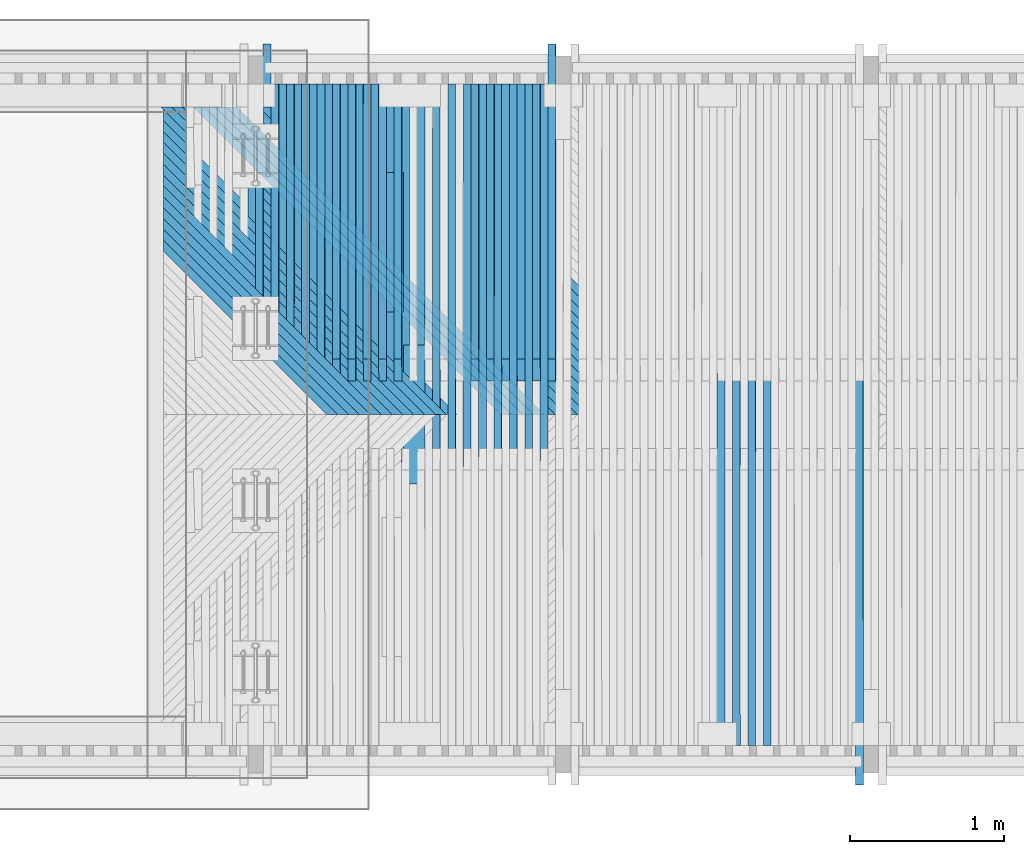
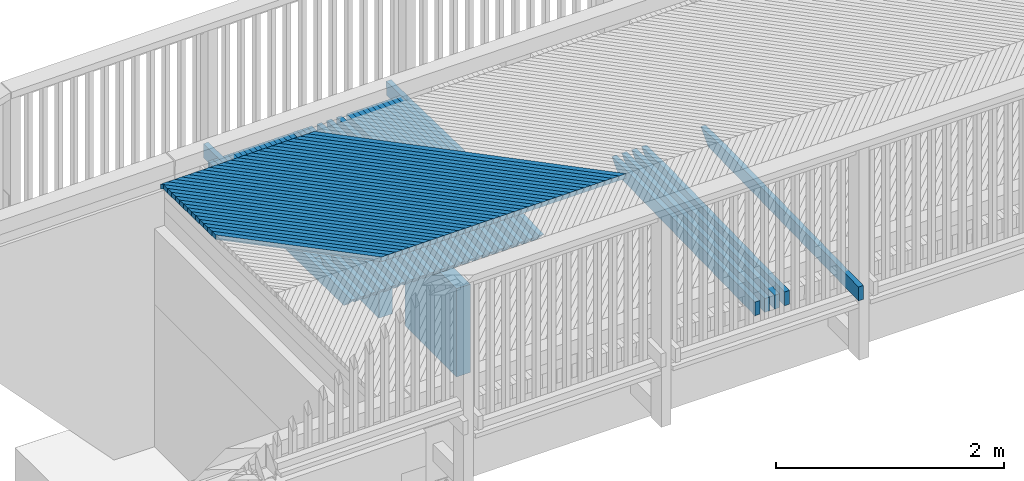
# One storey, part 19 of 52: 78 beams.
"""IFC2X3 building model written with IfcOpenShell, lengths in millimetres."""

from ifc_helpers import new_model, si_unit, frame, origin_with_axes, place, context, subcontext, project, spatial, faceted_brep, material, type_object, element, save


model = new_model("IFC2X3")

# Units and contexts
model_context = context("Model", 3, precision=1e-05, world=origin_with_axes())
body_context = subcontext(model_context, "Body", "Model", "MODEL_VIEW")
ifc_project = project(units=[si_unit("LENGTHUNIT", "METRE", prefix="MILLI"), si_unit("AREAUNIT", "SQUARE_METRE"), si_unit("VOLUMEUNIT", "CUBIC_METRE"), si_unit("MASSUNIT", "GRAM", prefix="KILO"), si_unit("TIMEUNIT", "SECOND"), si_unit("PLANEANGLEUNIT", "RADIAN"), si_unit("SOLIDANGLEUNIT", "STERADIAN"), si_unit("THERMODYNAMICTEMPERATUREUNIT", "DEGREE_CELSIUS"), si_unit("LUMINOUSINTENSITYUNIT", "LUMEN")], contexts=[model_context])

# Site, building, storey
site_placement = place(None, origin_with_axes())
site = spatial("IfcSite", under=ifc_project, at=site_placement, Name="Undefined", CompositionType="ELEMENT")
building_placement = place(site_placement, origin_with_axes())
building = spatial("IfcBuilding", under=site, at=building_placement, Name="Undefined", CompositionType="ELEMENT")
storey_placement = place(building_placement, origin_with_axes())
storey = spatial("IfcBuildingStorey", under=building, at=storey_placement, Name="Undefined", CompositionType="ELEMENT", Elevation=0.0)

# Beams
ifc_material = material(Name="TIMBER/Timber_Undefined")
beam_type_1 = type_object("IfcBeamType", Name="945*140", PredefinedType="NOTDEFINED")
for number, where, z_axis, x_axis in (
    (1, (1031.0, 2817.5, 2502.1379002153), (0.0, 0.0, 1.0), (0.0, -1.0, 0.0)),
    (2, (891.0, 3937.5, 2500.3779002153), (0.0, 0.0, 1.0), (0.0, -1.0, 0.0)),
):
    element("IfcBeam", number, at=place(storey_placement, frame(where, z_axis=z_axis, x_axis=x_axis)), inside=storey, type_object=beam_type_1, material=ifc_material, Name="PALKKI", ObjectType="945*140", context=body_context, shape_type="Brep", body=[
        faceted_brep([(0.0, 70.0, -472.5), (0.0, 70.0, 472.5), (905.0, 70.0, 472.5), (905.0, 70.0, -472.5), (0.0, -70.0, 472.5), (905.0, -70.0, 472.5), (0.0, -70.0, -472.5), (905.0, -70.0, -472.5)], [[[0, 1, 2, 3]], [[1, 4, 5, 2]], [[4, 6, 7, 5]], [[6, 0, 3, 7]], [[5, 7, 3, 2]], [[6, 4, 1, 0]]]),
    ])
beam_type_2 = type_object("IfcBeamType", Name="50*50", PredefinedType="NOTDEFINED")
beam_1_placement = place(storey_placement, frame((497.783472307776, 2365.49989967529, 3189.38189593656), z_axis=(0.707219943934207, 0.706981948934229, -0.00405891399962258), x_axis=(-0.706849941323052, 0.706948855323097, -0.024217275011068)))
element("IfcBeam", 3, at=beam_1_placement, inside=storey, type_object=beam_type_2, material=ifc_material, Name="BEAM", ObjectType="50*50", context=body_context, shape_type="Brep", body=[
    faceted_brep([(25.0011701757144, -25.0, -25.0), (-25.0011704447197, -25.0, 24.9999999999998), (-26.4154158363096, 25.0000000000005, 24.9999999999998), (23.5869248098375, 25.0, -25.0000000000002), (1577.57341753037, 25.0, 25.0000000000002), (1527.54724488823, 24.9999999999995, -24.9999999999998), (1528.55536067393, -25.0, -24.9999999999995), (1578.58153331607, -25.0000000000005, 24.9999999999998)], [[[0, 1, 2, 3]], [[3, 2, 4, 5]], [[0, 3, 5, 6]], [[1, 0, 6, 7]], [[2, 1, 7, 4]], [[6, 5, 4, 7]]]),
])
beam_2_placement = place(storey_placement, frame((568.50226725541, 2365.49989967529, 3190.25895789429), z_axis=(0.707219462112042, 0.706981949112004, -0.0041419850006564), x_axis=(-0.706852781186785, 0.706948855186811, -0.0241342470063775)))
element("IfcBeam", 4, at=beam_2_placement, inside=storey, type_object=beam_type_2, material=ifc_material, Name="BEAM", ObjectType="50*50", context=body_context, shape_type="Brep", body=[
    faceted_brep([(25.0011701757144, -25.0, -25.0), (-25.0011704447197, -25.0, 24.9999999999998), (-26.4154158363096, 25.0000000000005, 24.9999999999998), (23.5869248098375, 25.0, -25.0000000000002), (1677.61863252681, 25.0000000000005, 24.9999999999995), (1627.59269495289, 25.0, -25.0000000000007), (1628.59250041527, -25.0, -25.0000000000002), (1678.61843798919, -24.9999999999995, 24.9999999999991)], [[[0, 1, 2, 3]], [[3, 2, 4, 5]], [[0, 3, 5, 6]], [[1, 0, 6, 7]], [[2, 1, 7, 4]], [[6, 5, 4, 7]]]),
])
beam_3_placement = place(storey_placement, frame((639.221164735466, 2365.49989967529, 3191.12771316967), z_axis=(0.707218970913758, 0.706981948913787, -0.00422505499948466), x_axis=(-0.70685561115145, 0.70694885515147, -0.0240512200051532)))
element("IfcBeam", 5, at=beam_3_placement, inside=storey, type_object=beam_type_2, material=ifc_material, Name="BEAM", ObjectType="50*50", context=body_context, shape_type="Brep", body=[
    faceted_brep([(25.0011701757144, -25.0, -25.0), (-25.0011704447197, -25.0, 24.9999999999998), (-26.4154158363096, 25.0000000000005, 24.9999999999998), (23.5869248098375, 25.0, -25.0000000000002), (1777.66321320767, 24.9999999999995, 25.0), (1727.63751066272, 24.9999999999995, -25.0), (1728.62900598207, -25.0000000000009, -25.0), (1778.65470852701, -25.0000000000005, 25.0)], [[[0, 1, 2, 3]], [[3, 2, 4, 5]], [[0, 3, 5, 6]], [[1, 0, 6, 7]], [[2, 1, 7, 4]], [[6, 5, 4, 7]]]),
])
beam_4_placement = place(storey_placement, frame((709.940163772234, 2365.49989967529, 3191.98816175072), z_axis=(0.707218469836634, 0.706981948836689, -0.00430812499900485), x_axis=(-0.706858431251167, 0.7069488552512, -0.0239681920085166)))
element("IfcBeam", 6, at=beam_4_placement, inside=storey, type_object=beam_type_2, material=ifc_material, Name="BEAM", ObjectType="50*50", context=body_context, shape_type="Brep", body=[
    faceted_brep([(25.0011701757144, -25.0, -25.0), (-25.0011704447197, -25.0, 24.9999999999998), (-26.4154158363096, 25.0000000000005, 24.9999999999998), (23.5869248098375, 25.0, -25.0000000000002), (1877.70716236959, 25.0000000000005, 25.0), (1827.68169485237, 25.0000000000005, -24.9999999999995), (1828.66488005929, -25.0, -25.0), (1878.69034757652, -25.0, 25.0)], [[[0, 1, 2, 3]], [[3, 2, 4, 5]], [[0, 3, 5, 6]], [[1, 0, 6, 7]], [[2, 1, 7, 4]], [[6, 5, 4, 7]]]),
])
beam_5_placement = place(storey_placement, frame((780.659263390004, 2365.49989967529, 3192.8403036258), z_axis=(0.707217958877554, 0.706981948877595, -0.00439119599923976), x_axis=(-0.706861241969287, 0.706948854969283, -0.0238851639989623)))
element("IfcBeam", 7, at=beam_5_placement, inside=storey, type_object=beam_type_2, material=ifc_material, Name="BEAM", ObjectType="50*50", context=body_context, shape_type="Brep", body=[
    faceted_brep([(25.0011701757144, -25.0, -25.0), (-25.0011704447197, -25.0, 24.9999999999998), (-26.4154158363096, 25.0000000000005, 24.9999999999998), (23.5869248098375, 25.0, -25.0000000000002), (1977.75048147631, 25.0000000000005, 24.9999999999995), (1927.72524901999, 25.0000000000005, -25.0), (1928.70012414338, -24.9999999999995, -25.0000000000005), (1978.7253565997, -24.9999999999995, 24.9999999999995)], [[[0, 1, 2, 3]], [[3, 2, 4, 5]], [[0, 3, 5, 6]], [[1, 0, 6, 7]], [[2, 1, 7, 4]], [[6, 5, 4, 7]]]),
])
beam_6_placement = place(storey_placement, frame((851.378462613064, 2365.49989967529, 3193.68413878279), z_axis=(0.707217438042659, 0.706981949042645, -0.00447426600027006), x_axis=(-0.706864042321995, 0.706948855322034, -0.0238021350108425)))
element("IfcBeam", 8, at=beam_6_placement, inside=storey, type_object=beam_type_2, material=ifc_material, Name="BEAM", ObjectType="50*50", context=body_context, shape_type="Brep", body=[
    faceted_brep([(25.0011701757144, -25.0, -25.0), (-25.0011704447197, -25.0, 24.9999999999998), (-26.4154158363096, 25.0000000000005, 24.9999999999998), (23.5869248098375, 25.0, -25.0000000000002), (2077.79317600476, 25.0000000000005, 24.9999999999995), (2027.76817857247, 25.0, -25.0), (2028.73474369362, -25.0, -25.0), (2078.7597411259, -25.0, 25.0)], [[[0, 1, 2, 3]], [[3, 2, 4, 5]], [[0, 3, 5, 6]], [[1, 0, 6, 7]], [[2, 1, 7, 4]], [[6, 5, 4, 7]]]),
])
beam_7_placement = place(storey_placement, frame((922.097760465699, 2365.49989967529, 3194.51966721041), z_axis=(0.707216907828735, 0.706981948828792, -0.00455733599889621), x_axis=(-0.706866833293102, 0.706948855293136, -0.0237191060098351)))
element("IfcBeam", 9, at=beam_7_placement, inside=storey, type_object=beam_type_2, material=ifc_material, Name="BEAM", ObjectType="50*50", context=body_context, shape_type="Brep", body=[
    faceted_brep([(25.0011701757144, -25.0, -25.0), (-25.0011704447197, -25.0, 24.9999999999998), (-26.4154158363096, 25.0000000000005, 24.9999999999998), (23.5869248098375, 25.0, -25.0000000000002), (2177.83524597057, 25.0000000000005, 25.0000000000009), (2127.81048355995, 25.0000000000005, -24.9999999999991), (2128.76873875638, -25.0, -24.9999999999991), (2178.793501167, -25.0, 25.0000000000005)], [[[0, 1, 2, 3]], [[3, 2, 4, 5]], [[0, 3, 5, 6]], [[1, 0, 6, 7]], [[2, 1, 7, 4]], [[6, 5, 4, 7]]]),
])
beam_8_placement = place(storey_placement, frame((992.817155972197, 2365.49989967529, 3195.34688889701), z_axis=(0.707216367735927, 0.706981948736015, -0.00464040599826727), x_axis=(-0.706869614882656, 0.706948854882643, -0.0236360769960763)))
element("IfcBeam", 10, at=beam_8_placement, inside=storey, type_object=beam_type_2, material=ifc_material, Name="BEAM", ObjectType="50*50", context=body_context, shape_type="Brep", body=[
    faceted_brep([(25.0011701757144, -25.0, -25.0), (-25.0011704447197, -25.0, 24.9999999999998), (-26.4154158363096, 25.0000000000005, 24.9999999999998), (23.5869248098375, 25.0, -25.0000000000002), (2277.87669396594, 25.0, 25.0000000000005), (2227.85216660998, 25.0, -24.9999999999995), (2228.80211195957, -25.0, -24.9999999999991), (2278.82663931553, -25.0000000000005, 25.0000000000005)], [[[0, 1, 2, 3]], [[3, 2, 4, 5]], [[0, 3, 5, 6]], [[1, 0, 6, 7]], [[2, 1, 7, 4]], [[6, 5, 4, 7]]]),
])
beam_9_placement = place(storey_placement, frame((1063.53664815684, 2365.49989967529, 3196.16580383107), z_axis=(0.707215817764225, 0.706981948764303, -0.00472347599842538), x_axis=(-0.706872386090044, 0.706948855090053, -0.0235530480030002)))
element("IfcBeam", 11, at=beam_9_placement, inside=storey, type_object=beam_type_2, material=ifc_material, Name="BEAM", ObjectType="50*50", context=body_context, shape_type="Brep", body=[
    faceted_brep([(25.0011701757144, -25.0, -25.0), (-25.0011704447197, -25.0, 24.9999999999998), (-26.4154158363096, 25.0000000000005, 24.9999999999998), (23.5869248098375, 25.0, -25.0000000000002), (2377.91752596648, 25.0, 24.9999999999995), (2327.89323362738, 25.0, -25.0), (2328.83486921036, -25.0000000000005, -25.0), (2378.85916154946, -25.0000000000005, 25.0)], [[[0, 1, 2, 3]], [[3, 2, 4, 5]], [[0, 3, 5, 6]], [[1, 0, 6, 7]], [[2, 1, 7, 4]], [[6, 5, 4, 7]]]),
])
beam_10_placement = place(storey_placement, frame((1134.25623604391, 2365.49989967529, 3196.97641200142), z_axis=(0.707215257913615, 0.706981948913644, -0.00480654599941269), x_axis=(-0.706875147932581, 0.706948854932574, -0.0234700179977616)))
element("IfcBeam", 12, at=beam_10_placement, inside=storey, type_object=beam_type_2, material=ifc_material, Name="BEAM", ObjectType="50*50", context=body_context, shape_type="Brep", body=[
    faceted_brep([(25.0011701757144, -25.0, -25.0), (-25.0011704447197, -25.0, 24.9999999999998), (-26.4154158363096, 25.0000000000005, 24.9999999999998), (23.5869248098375, 25.0, -25.0000000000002), (2477.9577414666, 25.0, 25.0), (2427.93368417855, 25.0, -25.0), (2428.8670100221, -24.9999999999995, -24.9999999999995), (2478.89106731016, -25.0, 25.0000000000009)], [[[0, 1, 2, 3]], [[3, 2, 4, 5]], [[0, 3, 5, 6]], [[1, 0, 6, 7]], [[2, 1, 7, 4]], [[6, 5, 4, 7]]]),
])
beam_11_placement = place(storey_placement, frame((1204.9759186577, 2365.49989967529, 3197.77871339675), z_axis=(0.707214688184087, 0.706981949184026, -0.00488961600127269), x_axis=(-0.706877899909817, 0.706948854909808, -0.0233869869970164)))
element("IfcBeam", 13, at=beam_11_placement, inside=storey, type_object=beam_type_2, material=ifc_material, Name="BEAM", ObjectType="50*50", context=body_context, shape_type="Brep", body=[
    faceted_brep([(25.0011701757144, -25.0, -25.0), (-25.0011704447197, -25.0, 24.9999999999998), (-26.4154158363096, 25.0000000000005, 24.9999999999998), (23.5869248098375, 25.0, -25.0000000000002), (2577.99734489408, 25.0000000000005, 25.0), (2527.97352265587, 25.0000000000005, -25.0), (2528.89853878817, -24.9999999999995, -25.0), (2578.92236102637, -24.9999999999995, 25.0)], [[[0, 1, 2, 3]], [[3, 2, 4, 5]], [[0, 3, 5, 6]], [[1, 0, 6, 7]], [[2, 1, 7, 4]], [[6, 5, 4, 7]]]),
])
beam_12_placement = place(storey_placement, frame((1275.69569502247, 2365.49989967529, 3198.57270800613), z_axis=(0.707214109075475, 0.70698194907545, -0.00497268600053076), x_axis=(-0.70688064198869, 0.706948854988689, -0.0233039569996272)))
element("IfcBeam", 14, at=beam_12_placement, inside=storey, type_object=beam_type_2, material=ifc_material, Name="BEAM", ObjectType="50*50", context=body_context, shape_type="Brep", body=[
    faceted_brep([(25.0011701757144, -25.0, -25.0), (-25.0011704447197, -25.0, 24.9999999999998), (-26.4154158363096, 25.0000000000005, 24.9999999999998), (23.5869248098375, 25.0, -25.0000000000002), (2678.0363391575, 25.0, 25.0000000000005), (2628.01275193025, 25.0, -24.9999999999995), (2628.92945847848, -24.9999999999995, -25.0), (2678.95304570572, -24.9999999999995, 25.0000000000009)], [[[0, 1, 2, 3]], [[3, 2, 4, 5]], [[0, 3, 5, 6]], [[1, 0, 6, 7]], [[2, 1, 7, 4]], [[6, 5, 4, 7]]]),
])
beam_13_placement = place(storey_placement, frame((1346.41556416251, 2365.49989967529, 3199.3583958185), z_axis=(0.707213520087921, 0.706981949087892, -0.00505575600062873), x_axis=(-0.706883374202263, 0.706948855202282, -0.0232209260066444)))
element("IfcBeam", 15, at=beam_13_placement, inside=storey, type_object=beam_type_2, material=ifc_material, Name="BEAM", ObjectType="50*50", context=body_context, shape_type="Brep", body=[
    faceted_brep([(25.0011701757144, -25.0, -25.0), (-25.0011704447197, -25.0, 24.9999999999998), (-26.4154158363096, 25.0000000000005, 24.9999999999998), (23.5869248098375, 25.0, -25.0000000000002), (2778.07472698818, 25.0, 25.0000000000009), (2728.0513747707, 25.0000000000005, -24.9999999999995), (2728.95977176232, -25.0, -24.9999999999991), (2778.98312397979, -25.0, 25.0000000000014)], [[[0, 1, 2, 3]], [[3, 2, 4, 5]], [[0, 3, 5, 6]], [[1, 0, 6, 7]], [[2, 1, 7, 4]], [[6, 5, 4, 7]]]),
])
for number, where, z_axis, x_axis, name in (
    (16, (1417.1355251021, 2365.49989967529, 3200.13577682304), (0.707212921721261, 0.706981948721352, -0.00513882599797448), (-0.706886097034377, 0.706948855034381, -0.0231378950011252), "BEAM"),
    (17, (1487.85557686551, 2365.49989967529, 3200.90485100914), (0.707212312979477, 0.706981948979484, -0.00522189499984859), (-0.706888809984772, 0.70694885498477, -0.0230548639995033), "BEAM"),
    (18, (1558.57571847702, 2365.49989967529, 3201.66561836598), (0.707211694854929, 0.706981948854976, -0.0053049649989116), (-0.706891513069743, 0.706948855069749, -0.0229718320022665), "BEAM"),
    (19, (1629.2959489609, 2365.49989967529, 3202.41807888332), (0.707211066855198, 0.706981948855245, -0.00538803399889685), (-0.706894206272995, 0.706948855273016, -0.0228888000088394), "BEAM"),
    (20, (1700.01626734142, 2365.49989967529, 3203.16223255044), (0.707210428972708, 0.706981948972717, -0.00547110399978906), (-0.706896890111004, 0.706948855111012, -0.0228057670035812), "BEAM"),
    (21, (1770.73667264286, 2365.49989967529, 3203.89807935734), (0.70720978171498, 0.706981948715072, -0.00555417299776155), (-0.706899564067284, 0.706948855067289, -0.0227227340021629), "BEAM"),
    (22, (1841.45716388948, 2365.49989967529, 3204.62561929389), (0.707209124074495, 0.706981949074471, -0.00563724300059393), (-0.706902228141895, 0.706948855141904, -0.0226397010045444), "BEAM"),
    (23, (1912.17774010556, 2365.49989967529, 3205.34485234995), (0.707208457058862, 0.706981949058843, -0.00572031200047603), (-0.706904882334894, 0.706948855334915, -0.0225566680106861), "BEAM"),
    (24, (1982.89840031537, 2365.49989967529, 3206.05577851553), (0.707207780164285, 0.706981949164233, -0.00580338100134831), (-0.706907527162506, 0.706948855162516, -0.0224736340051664), "BEAM"),
    (25, (2053.61914354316, 2365.49989967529, 3206.75839778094), (0.707207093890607, 0.706981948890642, -0.00588644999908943), (-0.706910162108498, 0.706948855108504, -0.0223906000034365), "BEAM"),
    (26, (2124.3399688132, 2365.49989967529, 3207.45271013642), (0.707206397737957, 0.706981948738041, -0.00596951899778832), (-0.706912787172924, 0.706948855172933, -0.0223075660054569), "BEAM"),
    (27, (2195.06087514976, 2365.49989967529, 3208.13871557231), (0.70720569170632, 0.706981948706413, -0.00605258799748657), (-0.706915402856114, 0.706948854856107, -0.0222245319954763), "BEAM"),
    (28, (2265.78186157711, 2365.49989967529, 3208.8164140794), (0.707204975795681, 0.706981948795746, -0.00613565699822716), (-0.70691800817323, 0.706948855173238, -0.0221414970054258), "BEAM"),
    (29, (2336.5029271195, 2365.49989967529, 3209.48580564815), (0.707204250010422, 0.706981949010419, -0.00621872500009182), (-0.706920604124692, 0.706948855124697, -0.0220584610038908), "BEAM"),
    (30, (2407.22407080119, 2365.49989967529, 3210.14689026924), (0.707203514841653, 0.706981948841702, -0.00630179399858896), (-0.706923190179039, 0.706948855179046, -0.0219754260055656), "BEAM"),
    (31, (2477.94529164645, 2365.49989967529, 3210.79966793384), (0.707202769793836, 0.706981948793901, -0.00638486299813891), (-0.706925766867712, 0.706948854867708, -0.0218923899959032), "BEAM"),
    (32, (2902.27418251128, 2365.49989967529, 3214.5418873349), (0.707198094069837, 0.706981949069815, -0.00688327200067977), (-0.706941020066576, 0.706948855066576, -0.0213941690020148), "BEAM"),
    (33, (2831.55251917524, 2365.49989967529, 3213.93895159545), (0.70719889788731, 0.706981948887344, -0.00680020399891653), (-0.706938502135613, 0.706948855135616, -0.02147720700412), "BEAM"),
    (34, (2760.83092714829, 2365.49989967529, 3213.32770884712), (0.707199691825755, 0.706981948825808, -0.00671713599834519), (-0.706935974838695, 0.706948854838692, -0.0215602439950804), "BEAM"),
    (35, (2690.1094074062, 2365.49989967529, 3212.70815909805), (0.707200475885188, 0.706981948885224, -0.00663406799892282), (-0.70693343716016, 0.706948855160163, -0.0216432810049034), "BEAM"),
    (36, (2619.38796092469, 2365.49989967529, 3212.08030235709), (0.707201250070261, 0.706981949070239, -0.00655099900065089), (-0.706930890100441, 0.706948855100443, -0.0217263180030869), "BEAM"),
    (37, (2548.66658867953, 2365.49989967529, 3211.44413863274), (0.70720201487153, 0.70698194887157, -0.00646793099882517), (-0.706928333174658, 0.706948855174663, -0.0218093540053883), "BEAM"),
):
    element("IfcBeam", number, at=place(storey_placement, frame(where, z_axis=z_axis, x_axis=x_axis)), inside=storey, type_object=beam_type_2, material=ifc_material, Name=name, ObjectType="50*50", context=body_context, shape_type="Brep", body=[
        faceted_brep([(23.5869248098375, 25.0, -25.0000000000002), (-26.4154158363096, 25.0000000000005, 24.9999999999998), (2802.92643296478, 25.0, 24.9999999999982), (2852.92877373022, 25.0000000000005, -25.0), (-25.0011704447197, -25.0, 24.9999999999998), (2804.3406783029, -25.0000000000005, 24.9999999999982), (25.0011701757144, -25.0, -25.0), (2854.34301907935, -24.9999999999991, -25.0)], [[[0, 1, 2, 3]], [[1, 4, 5, 2]], [[4, 6, 7, 5]], [[6, 0, 3, 7]], [[5, 7, 3, 2]], [[6, 4, 1, 0]]]),
    ])
beam_type_3 = type_object("IfcBeamType", Name="150*50", PredefinedType="NOTDEFINED")
for number, where, z_axis, x_axis, name in (
    (38, (3325.89651127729, 216.504607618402, 3074.99638800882), (-0.00776316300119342, -0.0199960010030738, 0.999769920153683), (-0.000155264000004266, 0.999800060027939, 0.0199953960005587), "BEAM"),
    (39, (3225.87955873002, 216.504607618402, 3074.21145155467), (-0.0079292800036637, -0.0199960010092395, 0.99976861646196), (-0.000158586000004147, 0.999800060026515, 0.0199953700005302), "BEAM"),
    (40, (3125.86273798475, 216.504607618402, 3073.40989676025), (-0.00809539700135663, -0.0199960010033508, 0.999767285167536), (-0.000161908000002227, 0.999800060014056, 0.0199953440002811), "BEAM"),
    (41, (3025.84605180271, 216.504607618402, 3072.59172364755), (-0.00826151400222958, -0.0199960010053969, 0.999765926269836), (-0.000165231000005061, 0.999800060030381, 0.0199953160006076), "BEAM"),
):
    element("IfcBeam", number, at=place(storey_placement, frame(where, z_axis=z_axis, x_axis=x_axis)), inside=storey, type_object=beam_type_3, material=ifc_material, Name=name, ObjectType="150*50", context=body_context, shape_type="Brep", body=[
        faceted_brep([(-1.67788130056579e-07, -24.9999999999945, -74.9999999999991), (1.67786311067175e-07, -24.9999999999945, 75.0000000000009), (1.67786311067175e-07, 25.0000000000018, 75.0), (-1.67787220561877e-07, 25.0000000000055, -75.0), (2375.00494422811, 25.0000000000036, -74.9999999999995), (2375.0049444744, -24.9999999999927, -74.9999999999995), (2510.5924871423, -24.9999999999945, 60.5875430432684), (2150.42514405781, -24.9999999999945, 75.0000000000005), (2150.42515052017, 25.0000000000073, 75.0), (2510.59248715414, 25.0000000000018, 60.5875433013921)], [[[0, 1, 2, 3]], [[0, 3, 4, 5]], [[1, 0, 5, 6, 7]], [[2, 1, 7, 8]], [[4, 3, 2, 8, 9]], [[5, 4, 9, 6]], [[6, 9, 8, 7]]]),
    ])
beam_14_placement = place(storey_placement, frame((3925.42563529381, -41.4438078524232, 3074.19674870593), z_axis=(-0.0067664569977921, -0.0199960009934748, 0.999777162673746), x_axis=(-0.000135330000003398, 0.999800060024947, 0.019995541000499)))
element("IfcBeam", 42, at=beam_14_placement, inside=storey, type_object=beam_type_3, material=ifc_material, Name="BEAM", ObjectType="150*50", context=body_context, shape_type="Brep", body=[
    faceted_brep([(-1.67788130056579e-07, -24.9999999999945, -74.9999999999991), (1.67786311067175e-07, -24.9999999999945, 75.0000000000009), (1.67786311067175e-07, 25.0000000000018, 75.0), (-1.67787220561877e-07, 25.0000000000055, -75.0), (2633.00494750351, 25.0, -74.9999999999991), (2633.00494763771, -25.0, -74.9999999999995), (2768.59248713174, -25.0, 60.5875397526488), (2408.42506549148, -25.0, 75.0000000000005), (2408.42500056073, 25.0, 75.0), (2768.59248710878, 24.9999999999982, 60.5875398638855)], [[[0, 1, 2, 3]], [[0, 3, 4, 5]], [[1, 0, 5, 6, 7]], [[2, 1, 7, 8]], [[4, 3, 2, 8, 9]], [[5, 4, 9, 6]], [[8, 7, 6, 9]]]),
])
beam_15_placement = place(storey_placement, frame((1925.61831897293, 4771.44380785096, 3057.33524344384), z_axis=(-0.0100889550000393, 0.0199960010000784, 0.9997491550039), x_axis=(-0.000201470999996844, -0.999800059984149, 0.0199949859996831)))
element("IfcBeam", 43, at=beam_15_placement, inside=storey, type_object=beam_type_3, material=ifc_material, Name="BEAM", ObjectType="150*50", context=body_context, shape_type="Brep", body=[
    faceted_brep([(-1.67788130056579e-07, -24.9999999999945, -74.9999999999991), (1.67786311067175e-07, -24.9999999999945, 75.0000000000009), (1.67786311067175e-07, 25.0000000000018, 75.0), (-1.67787220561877e-07, 25.0000000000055, -75.0), (2186.42646676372, 24.9999999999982, -75.0), (2186.42645144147, -25.0, -75.0), (2047.96935255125, -25.0, 75.0), (2047.9693678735, 25.0, 75.0)], [[[0, 1, 2, 3]], [[0, 3, 4, 5]], [[1, 0, 5, 6]], [[2, 1, 6, 7]], [[3, 2, 7, 4]], [[4, 7, 6, 5]]]),
])
for number, where, z_axis, x_axis, name in (
    (44, (1875.65468843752, 4513.4953923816, 3061.99027343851), (-0.010254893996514, 0.0199960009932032, 0.999747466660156), (-0.000205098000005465, -0.999800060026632, 0.0199949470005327), "BEAM"),
    (45, (1775.63991694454, 4513.4953923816, 3060.964371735), (-0.0104210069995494, 0.019996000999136, 0.999745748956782), (-0.000208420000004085, -0.999800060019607, 0.0199949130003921), "BEAM"),
    (46, (1675.6253172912, 4513.4953923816, 3059.92185205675), (-0.0105871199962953, 0.0199960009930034, 0.99974400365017), (-0.000211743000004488, -0.999800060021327, 0.0199948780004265), "BEAM"),
    (47, (1575.61089223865, 4513.4953923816, 3058.86271443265), (-0.0107532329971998, 0.0199960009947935, 0.999742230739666), (-0.00021506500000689, -0.999800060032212, 0.0199948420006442), "BEAM"),
    (48, (1475.59664454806, 4513.4953923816, 3057.78695889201), (-0.010919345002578, 0.0199960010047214, 0.999740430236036), (-0.000218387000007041, -0.999800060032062, 0.0199948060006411), "BEAM"),
    (49, (1375.58257698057, 4513.4953923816, 3056.69458546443), (-0.011085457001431, 0.0199960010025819, 0.999738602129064), (-0.00022170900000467, -0.999800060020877, 0.0199947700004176), "BEAM"),
    (50, (1275.56869229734, 4513.4953923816, 3055.58559418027), (-0.0112515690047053, 0.0199960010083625, 0.999736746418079), (-0.000225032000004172, -0.999800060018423, 0.0199947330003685), "BEAM"),
    (51, (1175.55499325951, 4513.4953923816, 3054.45998506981), (-0.0114176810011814, 0.0199960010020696, 0.999734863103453), (-0.000228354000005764, -0.999800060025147, 0.0199946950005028), "BEAM"),
    (52, (1075.54148262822, 4513.4953923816, 3053.31775816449), (-0.0115837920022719, 0.0199960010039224, 0.999732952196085), (-0.000231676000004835, -0.999800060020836, 0.0199946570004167), "BEAM"),
    (53, (975.528163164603, 4513.4953923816, 3052.1589134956), (-0.011749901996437, 0.019996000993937, 0.999731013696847), (-0.000234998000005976, -0.99980006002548, 0.0199946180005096), "BEAM"),
    (54, (875.515037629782, 4513.4953923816, 3050.98345109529), (-0.0119160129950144, 0.0199960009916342, 0.999729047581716), (-0.000238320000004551, -0.99980006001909, 0.0199945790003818), "BEAM"),
    (55, (775.50210878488, 4513.4953923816, 3049.79137099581), (-0.0120821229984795, 0.019996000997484, 0.999727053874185), (-0.000241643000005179, -0.999800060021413, 0.0199945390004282), "BEAM"),
    (56, (675.489379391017, 4513.4953923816, 3048.58267323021), (-0.0122482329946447, 0.0199960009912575, 0.999725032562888), (-0.000244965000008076, -0.99980006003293, 0.0199944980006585), "BEAM"),
    (57, (575.476852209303, 4513.4953923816, 3047.35735783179), (-0.012414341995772, 0.0199960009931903, 0.99972298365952), (-0.000248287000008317, -0.999800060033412, 0.0199944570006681), "BEAM"),
    (58, (475.464530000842, 4513.4953923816, 3046.11542483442), (-0.0125804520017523, 0.0199960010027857, 0.999720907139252), (-0.000251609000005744, -0.999800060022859, 0.0199944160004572), "BEAM"),
    (59, (375.452415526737, 4513.4953923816, 3044.85687427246), (-0.0127465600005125, 0.0199960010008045, 0.9997188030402), (-0.000254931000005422, -0.999800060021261, 0.0199943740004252), "BEAM"),
    (60, (275.44051154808, 4513.4953923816, 3043.58170618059), (-0.0129126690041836, 0.019996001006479, 0.999716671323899), (-0.000258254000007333, -0.99980006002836, 0.0199943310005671), "BEAM"),
    (61, (175.42882082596, 4513.4953923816, 3042.28992059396), (-0.0130787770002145, 0.0199960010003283, 0.999714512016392), (-0.00026157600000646, -0.999800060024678, 0.0199942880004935), "BEAM"),
):
    element("IfcBeam", number, at=place(storey_placement, frame(where, z_axis=z_axis, x_axis=x_axis)), inside=storey, type_object=beam_type_3, material=ifc_material, Name=name, ObjectType="150*50", context=body_context, shape_type="Brep", body=[
        faceted_brep([(-1.67788130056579e-07, -24.9999999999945, -74.9999999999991), (-1.67787220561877e-07, 25.0000000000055, -75.0), (2375.00494422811, 25.0000000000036, -74.9999999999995), (2375.0049444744, -24.9999999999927, -74.9999999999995), (1.67786311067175e-07, -24.9999999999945, 75.0000000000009), (1.67786311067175e-07, 25.0000000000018, 75.0), (2150.42515052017, 25.0000000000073, 75.0), (2510.59248715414, 25.0000000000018, 60.5875433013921), (2510.5924871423, -24.9999999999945, 60.5875430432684), (2150.42514405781, -24.9999999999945, 75.0000000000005)], [[[0, 1, 2, 3]], [[0, 4, 5, 1]], [[2, 1, 5, 6, 7]], [[3, 2, 7, 8]], [[4, 0, 3, 8, 9]], [[5, 4, 9, 6]], [[8, 7, 6, 9]]]),
    ])
for number, where, z_axis, x_axis, name in (
    (62, (1825.65731863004, 4513.49539238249, 3061.47742615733), (-0.010254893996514, 0.0199960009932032, 0.999747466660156), (-0.000205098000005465, -0.999800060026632, 0.0199949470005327), "BEAM"),
    (63, (1725.64263303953, 4513.49539238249, 3060.44321713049), (-0.0104210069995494, 0.019996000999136, 0.999745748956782), (-0.000208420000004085, -0.999800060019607, 0.0199949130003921), "BEAM"),
    (64, (1625.62812066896, 4513.49539238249, 3059.39239014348), (-0.0105871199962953, 0.0199960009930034, 0.99974400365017), (-0.000211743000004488, -0.999800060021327, 0.0199948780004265), "BEAM"),
    (65, (1525.61378427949, 4513.49539238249, 3058.32494522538), (-0.0107532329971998, 0.0199960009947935, 0.999742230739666), (-0.00021506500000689, -0.999800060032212, 0.0199948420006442), "BEAM"),
    (66, (1425.59962663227, 4513.49539238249, 3057.24088240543), (-0.010919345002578, 0.0199960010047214, 0.999740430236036), (-0.000218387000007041, -0.999800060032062, 0.0199948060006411), "BEAM"),
    (67, (925.531616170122, 4513.49539238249, 3051.5713008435), (-0.011749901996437, 0.019996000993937, 0.999731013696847), (-0.000234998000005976, -0.99980006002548, 0.0199946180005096), "BEAM"),
    (68, (825.518588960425, 4513.49539238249, 3050.38753125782), (-0.0119160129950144, 0.0199960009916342, 0.999729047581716), (-0.000238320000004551, -0.99980006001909, 0.0199945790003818), "BEAM"),
    (69, (725.505759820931, 4513.49539238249, 3049.18714398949), (-0.0120821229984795, 0.019996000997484, 0.999727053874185), (-0.000241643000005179, -0.999800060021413, 0.0199945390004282), "BEAM"),
    (70, (625.493131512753, 4513.49539238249, 3047.97013907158), (-0.0122482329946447, 0.0199960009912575, 0.999725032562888), (-0.000244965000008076, -0.99980006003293, 0.0199944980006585), "BEAM"),
    (71, (525.480706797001, 4513.49539238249, 3046.73651653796), (-0.012414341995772, 0.0199960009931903, 0.99972298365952), (-0.000248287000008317, -0.999800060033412, 0.0199944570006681), "BEAM"),
    (72, (425.468488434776, 4513.49539238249, 3045.48627642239), (-0.0125804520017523, 0.0199960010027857, 0.999720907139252), (-0.000251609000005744, -0.999800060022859, 0.0199944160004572), "BEAM"),
    (73, (325.456479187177, 4513.49539238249, 3044.21941875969), (-0.0127465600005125, 0.0199960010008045, 0.9997188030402), (-0.000254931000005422, -0.999800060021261, 0.0199943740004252), "BEAM"),
    (74, (225.444681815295, 4513.49539238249, 3042.93594358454), (-0.0129126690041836, 0.019996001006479, 0.999716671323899), (-0.000258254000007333, -0.99980006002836, 0.0199943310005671), "BEAM"),
    (75, (125.433099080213, 4513.49539238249, 3041.63585093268), (-0.0130787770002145, 0.0199960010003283, 0.999714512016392), (-0.00026157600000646, -0.999800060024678, 0.0199942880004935), "BEAM"),
):
    element("IfcBeam", number, at=place(storey_placement, frame(where, z_axis=z_axis, x_axis=x_axis)), inside=storey, type_object=beam_type_3, material=ifc_material, Name=name, ObjectType="150*50", context=body_context, shape_type="Brep", body=[
        faceted_brep([(-1.67788130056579e-07, -24.9999999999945, -74.9999999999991), (1.67786311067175e-07, -24.9999999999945, 75.0000000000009), (1.67786311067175e-07, 25.0000000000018, 75.0), (-1.67787220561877e-07, 25.0000000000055, -75.0), (1928.42646328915, 24.9999999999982, -74.9999999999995), (1928.42646353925, -25.0, -75.0), (1789.96936433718, -25.0000000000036, 74.9999999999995), (1789.96936408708, 24.9999999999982, 75.0000000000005)], [[[0, 1, 2, 3]], [[0, 3, 4, 5]], [[1, 0, 5, 6]], [[2, 1, 6, 7]], [[3, 2, 7, 4]], [[4, 7, 6, 5]]]),
    ])
beam_16_placement = place(storey_placement, frame((-24.5939098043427, 4513.4953923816, 3039.65649707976), z_axis=(-0.0134109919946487, 0.0199960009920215, 0.999710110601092), x_axis=(-0.000268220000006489, -0.999800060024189, 0.0199942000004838)))
element("IfcBeam", 76, at=beam_16_placement, inside=storey, type_object=beam_type_3, material=ifc_material, Name="BEAM", ObjectType="150*50", context=body_context, shape_type="Brep", body=[
    faceted_brep([(-1.67788130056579e-07, -24.9999999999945, -74.9999999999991), (-1.67787220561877e-07, 25.0000000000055, -75.0), (2375.00494422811, 25.0000000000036, -74.9999999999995), (2375.0049444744, -24.9999999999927, -74.9999999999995), (1.67786311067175e-07, -24.9999999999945, 75.0000000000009), (1.67786311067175e-07, 25.0000000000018, 75.0), (2150.42515052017, 25.0000000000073, 75.0), (2510.59248715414, 25.0000000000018, 60.5875433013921), (2510.5924871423, -24.9999999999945, 60.5875430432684), (2150.42514405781, -24.9999999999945, 75.0000000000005)], [[[0, 1, 2, 3]], [[0, 4, 5, 1]], [[2, 1, 5, 6, 7]], [[3, 2, 7, 8]], [[4, 0, 3, 8, 9]], [[5, 4, 9, 6]], [[8, 7, 6, 9]]]),
])
beam_17_placement = place(storey_placement, frame((75.4856898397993, 4771.44380785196, 3035.82300259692), z_axis=(-0.0132448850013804, 0.0199960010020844, 0.99971232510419), x_axis=(-0.000264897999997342, -0.999800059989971, 0.0199942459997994)))
element("IfcBeam", 77, at=beam_17_placement, inside=storey, type_object=beam_type_3, material=ifc_material, Name="BEAM", ObjectType="150*50", context=body_context, shape_type="Brep", body=[
    faceted_brep([(-1.67788130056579e-07, -24.9999999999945, -74.9999999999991), (-1.67787220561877e-07, 25.0000000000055, -75.0), (2633.00494750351, 25.0, -74.9999999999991), (2633.00494763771, -25.0, -74.9999999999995), (1.67786311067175e-07, -24.9999999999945, 75.0000000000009), (1.67786311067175e-07, 25.0000000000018, 75.0), (2408.42506824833, 25.0, 75.0000000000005), (2768.59248710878, 24.9999999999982, 60.5875398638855), (2768.59248713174, -25.0, 60.5875397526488), (2408.42506549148, -25.0, 75.0000000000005)], [[[0, 1, 2, 3]], [[0, 4, 5, 1]], [[2, 1, 5, 6, 7]], [[3, 2, 7, 8]], [[4, 0, 3, 8, 9]], [[5, 4, 9, 6]], [[8, 7, 6, 9]]]),
])
beam_18_placement = place(storey_placement, frame((25.4217337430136, 4513.49539238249, 3040.31914083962), z_axis=(-0.0132448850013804, 0.0199960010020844, 0.99971232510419), x_axis=(-0.000264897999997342, -0.999800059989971, 0.0199942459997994)))
element("IfcBeam", 78, at=beam_18_placement, inside=storey, type_object=beam_type_3, material=ifc_material, Name="BEAM", ObjectType="150*50", context=body_context, shape_type="Brep", body=[
    faceted_brep([(-1.67788130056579e-07, -24.9999999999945, -74.9999999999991), (1.67786311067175e-07, -24.9999999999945, 75.0000000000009), (1.67786311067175e-07, 25.0000000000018, 75.0), (-1.67787220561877e-07, 25.0000000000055, -75.0), (1928.42646328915, 24.9999999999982, -74.9999999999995), (1928.42646353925, -25.0, -75.0), (1789.96936433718, -25.0000000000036, 74.9999999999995), (1789.96936408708, 24.9999999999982, 75.0000000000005)], [[[0, 1, 2, 3]], [[0, 3, 4, 5]], [[1, 0, 5, 6]], [[2, 1, 6, 7]], [[3, 2, 7, 4]], [[4, 7, 6, 5]]]),
])

save(model, "model.ifc")
